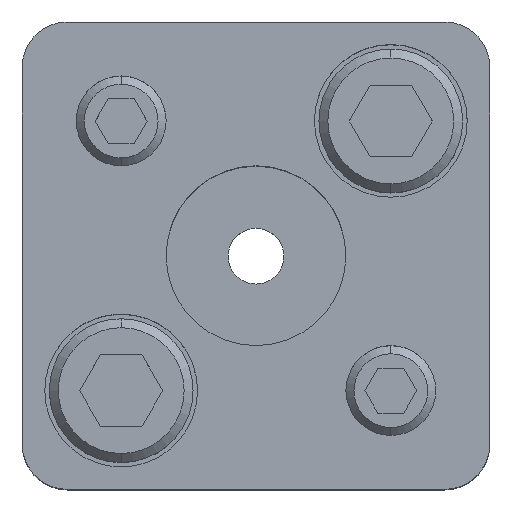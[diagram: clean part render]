
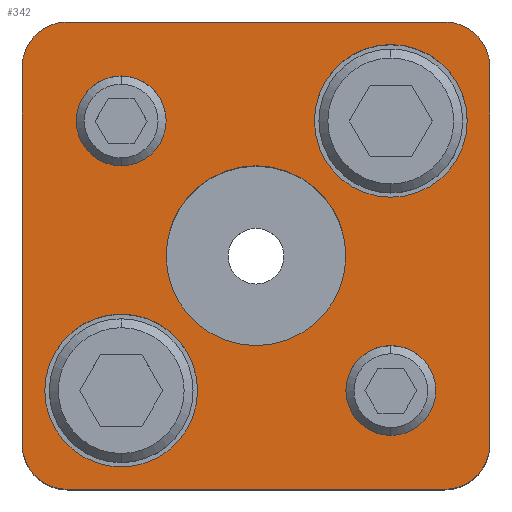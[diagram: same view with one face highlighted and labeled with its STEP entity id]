
A CAD part, top view. The second image highlights one B-rep face of the part: STEP entity #342.
In plain terms, the highlighted planar face has unit normal (0, 0, 1).
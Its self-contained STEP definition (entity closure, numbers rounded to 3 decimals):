
#169=PLANE('',#2888);
#244=FACE_BOUND('',#729,.T.);
#245=FACE_BOUND('',#730,.T.);
#246=FACE_BOUND('',#731,.T.);
#247=FACE_BOUND('',#732,.T.);
#248=FACE_BOUND('',#733,.T.);
#249=FACE_BOUND('',#734,.T.);
#342=ADVANCED_FACE('',(#244,#245,#246,#247,#248,#249),#169,.T.);
#729=EDGE_LOOP('',(#1539,#1540,#1541,#1542,#1543,#1544,#1545,#1546));
#730=EDGE_LOOP('',(#1547,#1548));
#731=EDGE_LOOP('',(#1549,#1550));
#732=EDGE_LOOP('',(#1551,#1552));
#733=EDGE_LOOP('',(#1553,#1554));
#734=EDGE_LOOP('',(#1555,#1556));
#907=LINE('',#4261,#1103);
#908=LINE('',#4265,#1104);
#909=LINE('',#4269,#1105);
#910=LINE('',#4273,#1106);
#1103=VECTOR('',#3427,1.);
#1104=VECTOR('',#3430,1.);
#1105=VECTOR('',#3433,1.);
#1106=VECTOR('',#3436,1.);
#1539=ORIENTED_EDGE('',*,*,#2357,.T.);
#1540=ORIENTED_EDGE('',*,*,#2358,.T.);
#1541=ORIENTED_EDGE('',*,*,#2359,.T.);
#1542=ORIENTED_EDGE('',*,*,#2360,.T.);
#1543=ORIENTED_EDGE('',*,*,#2361,.T.);
#1544=ORIENTED_EDGE('',*,*,#2362,.T.);
#1545=ORIENTED_EDGE('',*,*,#2363,.T.);
#1546=ORIENTED_EDGE('',*,*,#2364,.T.);
#1547=ORIENTED_EDGE('',*,*,#2365,.F.);
#1548=ORIENTED_EDGE('',*,*,#2366,.F.);
#1549=ORIENTED_EDGE('',*,*,#2367,.F.);
#1550=ORIENTED_EDGE('',*,*,#2368,.F.);
#1551=ORIENTED_EDGE('',*,*,#2343,.F.);
#1552=ORIENTED_EDGE('',*,*,#2339,.F.);
#1553=ORIENTED_EDGE('',*,*,#2337,.F.);
#1554=ORIENTED_EDGE('',*,*,#2333,.F.);
#1555=ORIENTED_EDGE('',*,*,#2369,.T.);
#1556=ORIENTED_EDGE('',*,*,#2370,.T.);
#2053=VERTEX_POINT('',#4209);
#2054=VERTEX_POINT('',#4210);
#2057=VERTEX_POINT('',#4222);
#2058=VERTEX_POINT('',#4223);
#2069=VERTEX_POINT('',#4259);
#2070=VERTEX_POINT('',#4260);
#2071=VERTEX_POINT('',#4262);
#2072=VERTEX_POINT('',#4264);
#2073=VERTEX_POINT('',#4266);
#2074=VERTEX_POINT('',#4268);
#2075=VERTEX_POINT('',#4270);
#2076=VERTEX_POINT('',#4272);
#2077=VERTEX_POINT('',#4275);
#2078=VERTEX_POINT('',#4276);
#2079=VERTEX_POINT('',#4279);
#2080=VERTEX_POINT('',#4280);
#2081=VERTEX_POINT('',#4283);
#2082=VERTEX_POINT('',#4284);
#2333=EDGE_CURVE('',#2053,#2054,#2635,.T.);
#2337=EDGE_CURVE('',#2054,#2053,#2637,.T.);
#2339=EDGE_CURVE('',#2057,#2058,#2639,.T.);
#2343=EDGE_CURVE('',#2058,#2057,#2641,.T.);
#2357=EDGE_CURVE('',#2069,#2070,#2651,.T.);
#2358=EDGE_CURVE('',#2070,#2071,#907,.T.);
#2359=EDGE_CURVE('',#2071,#2072,#2652,.T.);
#2360=EDGE_CURVE('',#2072,#2073,#908,.T.);
#2361=EDGE_CURVE('',#2073,#2074,#2653,.T.);
#2362=EDGE_CURVE('',#2074,#2075,#909,.T.);
#2363=EDGE_CURVE('',#2075,#2076,#2654,.T.);
#2364=EDGE_CURVE('',#2076,#2069,#910,.T.);
#2365=EDGE_CURVE('',#2077,#2078,#2655,.T.);
#2366=EDGE_CURVE('',#2078,#2077,#2656,.T.);
#2367=EDGE_CURVE('',#2079,#2080,#2657,.T.);
#2368=EDGE_CURVE('',#2080,#2079,#2658,.T.);
#2369=EDGE_CURVE('',#2081,#2082,#2659,.T.);
#2370=EDGE_CURVE('',#2082,#2081,#2660,.T.);
#2635=CIRCLE('',#2852,5.);
#2637=CIRCLE('',#2855,5.);
#2639=CIRCLE('',#2859,5.);
#2641=CIRCLE('',#2862,5.);
#2651=CIRCLE('',#2878,5.);
#2652=CIRCLE('',#2879,5.);
#2653=CIRCLE('',#2880,5.);
#2654=CIRCLE('',#2881,5.);
#2655=CIRCLE('',#2882,8.5);
#2656=CIRCLE('',#2883,8.5);
#2657=CIRCLE('',#2884,8.5);
#2658=CIRCLE('',#2885,8.5);
#2659=CIRCLE('',#2886,10.);
#2660=CIRCLE('',#2887,10.);
#2852=AXIS2_PLACEMENT_3D('',#4208,#3365,#3366);
#2855=AXIS2_PLACEMENT_3D('',#4217,#3373,#3374);
#2859=AXIS2_PLACEMENT_3D('',#4221,#3381,#3382);
#2862=AXIS2_PLACEMENT_3D('',#4230,#3389,#3390);
#2878=AXIS2_PLACEMENT_3D('',#4258,#3425,#3426);
#2879=AXIS2_PLACEMENT_3D('',#4263,#3428,#3429);
#2880=AXIS2_PLACEMENT_3D('',#4267,#3431,#3432);
#2881=AXIS2_PLACEMENT_3D('',#4271,#3434,#3435);
#2882=AXIS2_PLACEMENT_3D('',#4274,#3437,#3438);
#2883=AXIS2_PLACEMENT_3D('',#4277,#3439,#3440);
#2884=AXIS2_PLACEMENT_3D('',#4278,#3441,#3442);
#2885=AXIS2_PLACEMENT_3D('',#4281,#3443,#3444);
#2886=AXIS2_PLACEMENT_3D('',#4282,#3445,#3446);
#2887=AXIS2_PLACEMENT_3D('',#4285,#3447,#3448);
#2888=AXIS2_PLACEMENT_3D('',#4286,#3449,#3450);
#3365=DIRECTION('',(0.,0.,1.));
#3366=DIRECTION('',(-1.,0.,0.));
#3373=DIRECTION('',(0.,0.,1.));
#3374=DIRECTION('',(1.,0.,0.));
#3381=DIRECTION('',(0.,0.,1.));
#3382=DIRECTION('',(-1.,0.,0.));
#3389=DIRECTION('',(0.,0.,1.));
#3390=DIRECTION('',(1.,0.,0.));
#3425=DIRECTION('',(0.,0.,1.));
#3426=DIRECTION('',(-0.707,0.707,0.));
#3427=DIRECTION('',(0.,1.,0.));
#3428=DIRECTION('',(0.,0.,1.));
#3429=DIRECTION('',(-0.707,-0.707,0.));
#3430=DIRECTION('',(-1.,0.,0.));
#3431=DIRECTION('',(0.,0.,1.));
#3432=DIRECTION('',(0.707,-0.707,0.));
#3433=DIRECTION('',(0.,-1.,0.));
#3434=DIRECTION('',(0.,0.,1.));
#3435=DIRECTION('',(0.707,0.707,0.));
#3436=DIRECTION('',(1.,0.,0.));
#3437=DIRECTION('',(0.,0.,1.));
#3438=DIRECTION('',(1.,0.,0.));
#3439=DIRECTION('',(0.,0.,1.));
#3440=DIRECTION('',(-1.,0.,0.));
#3441=DIRECTION('',(0.,0.,1.));
#3442=DIRECTION('',(1.,0.,0.));
#3443=DIRECTION('',(0.,0.,1.));
#3444=DIRECTION('',(-1.,0.,0.));
#3445=DIRECTION('',(0.,0.,-1.));
#3446=DIRECTION('',(-1.,0.,0.));
#3447=DIRECTION('',(0.,0.,-1.));
#3448=DIRECTION('',(1.,0.,0.));
#3449=DIRECTION('',(0.,0.,1.));
#3450=DIRECTION('',(-1.,0.,0.));
#4208=CARTESIAN_POINT('',(15.,-15.,40.));
#4209=CARTESIAN_POINT('',(15.,-20.,40.));
#4210=CARTESIAN_POINT('',(15.,-10.,40.));
#4217=CARTESIAN_POINT('',(15.,-15.,40.));
#4221=CARTESIAN_POINT('',(-15.,15.,40.));
#4222=CARTESIAN_POINT('',(-15.,10.,40.));
#4223=CARTESIAN_POINT('',(-15.,20.,40.));
#4230=CARTESIAN_POINT('',(-15.,15.,40.));
#4258=CARTESIAN_POINT('',(21.,-21.,40.));
#4259=CARTESIAN_POINT('',(21.,-26.,40.));
#4260=CARTESIAN_POINT('',(26.,-21.,40.));
#4261=CARTESIAN_POINT('',(26.,21.,40.));
#4262=CARTESIAN_POINT('',(26.,21.,40.));
#4263=CARTESIAN_POINT('',(21.,21.,40.));
#4264=CARTESIAN_POINT('',(21.,26.,40.));
#4265=CARTESIAN_POINT('',(-21.,26.,40.));
#4266=CARTESIAN_POINT('',(-21.,26.,40.));
#4267=CARTESIAN_POINT('',(-21.,21.,40.));
#4268=CARTESIAN_POINT('',(-26.,21.,40.));
#4269=CARTESIAN_POINT('',(-26.,21.,40.));
#4270=CARTESIAN_POINT('',(-26.,-21.,40.));
#4271=CARTESIAN_POINT('',(-21.,-21.,40.));
#4272=CARTESIAN_POINT('',(-21.,-26.,40.));
#4273=CARTESIAN_POINT('',(-21.,-26.,40.));
#4274=CARTESIAN_POINT('',(15.,15.,40.));
#4275=CARTESIAN_POINT('',(15.,23.5,40.));
#4276=CARTESIAN_POINT('',(15.,6.5,40.));
#4277=CARTESIAN_POINT('',(15.,15.,40.));
#4278=CARTESIAN_POINT('',(-15.,-15.,40.));
#4279=CARTESIAN_POINT('',(-15.,-6.5,40.));
#4280=CARTESIAN_POINT('',(-15.,-23.5,40.));
#4281=CARTESIAN_POINT('',(-15.,-15.,40.));
#4282=CARTESIAN_POINT('',(0.,0.,40.));
#4283=CARTESIAN_POINT('',(0.,10.,40.));
#4284=CARTESIAN_POINT('',(0.,-10.,40.));
#4285=CARTESIAN_POINT('',(0.,0.,40.));
#4286=CARTESIAN_POINT('',(21.,-26.,40.));
